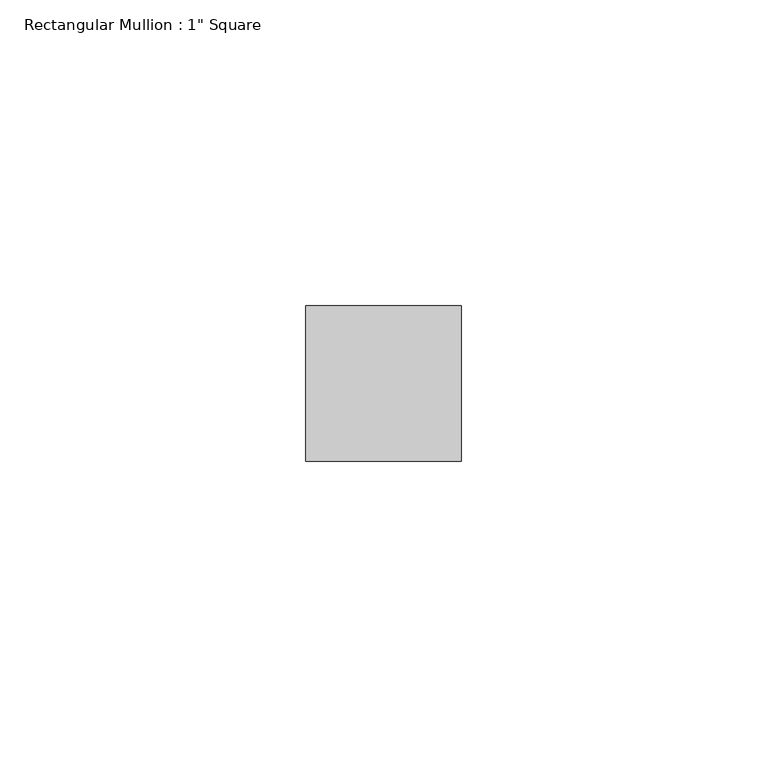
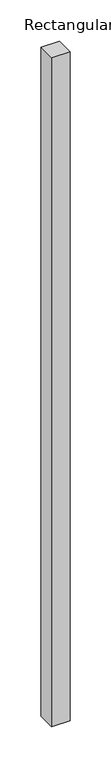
"""IFC4 building model written with IfcOpenShell, lengths in millimetres: member geometry."""

from ifc_helpers import new_model, si_unit, frame, origin, place, context, project, spatial, polyline, outline, extrude, source, transform, mapped, element, save


def member_4cbb40d8(model_context):
    return source(origin(), model_context, "Body", "SweptSolid", [
        extrude(outline(polyline([(12.7, 12.7), (12.7, -12.7), (-12.7, -12.7), (-12.7, 12.7), (12.7, 12.7)])), frame((0.0, 0.0, -986.4603978), z_axis=(0.0, 0.0, 1.0), x_axis=(1.0, 0.0, 0.0)), (0.0, 0.0, 1.0), 986.4603978),
    ])


if __name__ == "__main__":
    model = new_model("IFC4")
    model_context = context("Model", 3, world=origin())
    ifc_project = project(units=[si_unit("LENGTHUNIT", "METRE", prefix="MILLI")], contexts=[model_context])
    site = spatial("IfcSite", under=ifc_project)
    building = spatial("IfcBuilding", under=site)
    placement = place(None, origin())
    member_shape = member_4cbb40d8(model_context)
    element("IfcMember", 1, ObjectType="Rectangular Mullion : 1\" Square", at=placement, inside=building, context=model_context, shape_type="MappedRepresentation", body=[
        mapped(member_shape, transform((0.0, 0.0, 0.0), x_axis=(1.0, 0.0, 0.0), y_axis=(0.0, 1.0, 0.0), z_axis=(0.0, 0.0, 1.0))),
    ])
    save(model, "model.ifc")
